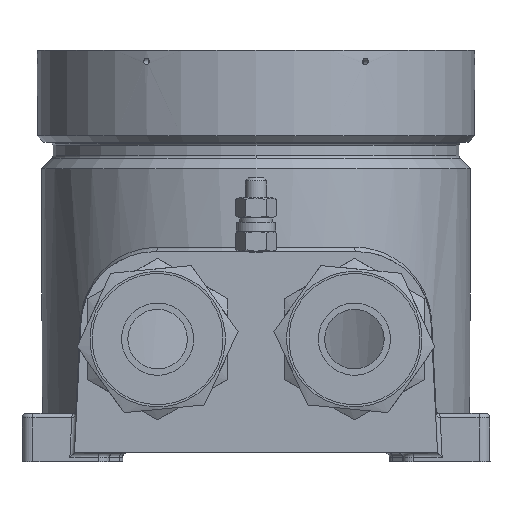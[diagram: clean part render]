
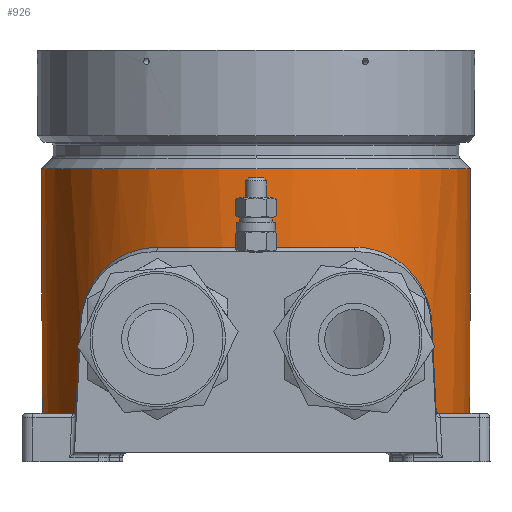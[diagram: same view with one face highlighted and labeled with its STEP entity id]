
A CAD part, left-side view. The second image highlights one B-rep face of the part: STEP entity #926.
In plain terms, the highlighted cylindrical face has radius 49 mm (diameter 98 mm), a full revolution.
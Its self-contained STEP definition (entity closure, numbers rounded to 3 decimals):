
#926=ADVANCED_FACE('',(#8729,#8731),#8733,.T.);
#8729=FACE_BOUND('',#8730,.T.);
#8730=EDGE_LOOP('',(#15916,#15917,#15918,#15919,#15920,#15921,#15922,#15923,#15924,
#15925,#15926));
#8731=FACE_OUTER_BOUND('',#8732,.T.);
#8732=EDGE_LOOP('',(#15927));
#8733=CYLINDRICAL_SURFACE('',#8734,49.);
#8734=AXIS2_PLACEMENT_3D('',#8735,#8736,#8737);
#8735=CARTESIAN_POINT('',(0.,0.,8.));
#8736=DIRECTION('',(0.,0.,1.));
#8737=DIRECTION('',(-1.,0.,0.));
#15916=ORIENTED_EDGE('',*,*,#19667,.F.);
#15917=ORIENTED_EDGE('',*,*,#19668,.T.);
#15918=ORIENTED_EDGE('',*,*,#19669,.F.);
#15919=ORIENTED_EDGE('',*,*,#19439,.F.);
#15920=ORIENTED_EDGE('',*,*,#19554,.F.);
#15921=ORIENTED_EDGE('',*,*,#19553,.F.);
#15922=ORIENTED_EDGE('',*,*,#19550,.F.);
#15923=ORIENTED_EDGE('',*,*,#19670,.F.);
#15924=ORIENTED_EDGE('',*,*,#19671,.T.);
#15925=ORIENTED_EDGE('',*,*,#19672,.F.);
#15926=ORIENTED_EDGE('',*,*,#19673,.T.);
#15927=ORIENTED_EDGE('',*,*,#19674,.T.);
#19439=EDGE_CURVE('',#21517,#21518,#21519,.T.);
#19550=EDGE_CURVE('',#21702,#21703,#21704,.T.);
#19553=EDGE_CURVE('',#21703,#21707,#21708,.F.);
#19554=EDGE_CURVE('',#21707,#21517,#21709,.F.);
#19667=EDGE_CURVE('',#21899,#21900,#21901,.F.);
#19668=EDGE_CURVE('',#21899,#21902,#21903,.T.);
#19669=EDGE_CURVE('',#21518,#21902,#21904,.F.);
#19670=EDGE_CURVE('',#21905,#21702,#21906,.F.);
#19671=EDGE_CURVE('',#21905,#21907,#21908,.T.);
#19672=EDGE_CURVE('',#21909,#21907,#21910,.F.);
#19673=EDGE_CURVE('',#21909,#21900,#21911,.T.);
#19674=EDGE_CURVE('',#21912,#21912,#21913,.F.);
#21517=VERTEX_POINT('',#25587);
#21518=VERTEX_POINT('',#25588);
#21519=B_SPLINE_CURVE_WITH_KNOTS('',3,
(#25589,#25590,#25591,#25592,#25593,#25594,#25595,#25596,#25597,#25598,#25599,#25600,
#25601,#25602,#25603,#25604,#25605,#25606,#25607,#25608,#25609),
.UNSPECIFIED.,.F.,.F.,
(4,1,1,1,1,1,1,1,1,1,1,1,1,1,1,1,1,1,4),
(0.,0.091,0.177,0.256,0.326,0.392,
0.455,0.516,0.573,0.628,0.678,
0.724,0.769,0.814,0.856,0.896,
0.938,0.972,1.),
.UNSPECIFIED.);
#21702=VERTEX_POINT('',#26511);
#21703=VERTEX_POINT('',#26512);
#21704=B_SPLINE_CURVE_WITH_KNOTS('',3,
(#26513,#26514,#26515,#26516,#26517,#26518,#26519,#26520,#26521,#26522,#26523,#26524,
#26525,#26526,#26527,#26528,#26529,#26530,#26531,#26532,#26533,#26534,#26535,#26536,
#26537,#26538,#26539),
.UNSPECIFIED.,.F.,.F.,
(4,1,1,1,1,1,1,1,1,1,1,1,1,1,1,1,1,1,1,1,1,1,1,1,4),
(0.,0.009,0.018,0.026,0.034,
0.045,0.061,0.084,0.114,0.152,
0.192,0.237,0.283,0.332,0.386,
0.442,0.504,0.569,0.637,0.708,
0.779,0.846,0.919,0.969,1.),
.UNSPECIFIED.);
#21707=VERTEX_POINT('',#26551);
#21708=CIRCLE('',#26552,49.);
#21709=CIRCLE('',#26556,49.);
#21899=VERTEX_POINT('',#27247);
#21900=VERTEX_POINT('',#27248);
#21901=CIRCLE('',#27249,49.);
#21902=VERTEX_POINT('',#27253);
#21903=CIRCLE('',#27254,49.);
#21904=(BOUNDED_CURVE()B_SPLINE_CURVE(3,
(#27258,#27259,#27260,#27261),
.UNSPECIFIED.,.F.,.F.)B_SPLINE_CURVE_WITH_KNOTS((4,4),
(0.,1.),
.UNSPECIFIED.)CURVE()GEOMETRIC_REPRESENTATION_ITEM()RATIONAL_B_SPLINE_CURVE((1.,
1.,1.,1.))REPRESENTATION_ITEM(''));
#21905=VERTEX_POINT('',#27262);
#21906=(BOUNDED_CURVE()B_SPLINE_CURVE(3,
(#27263,#27264,#27265,#27266),
.UNSPECIFIED.,.F.,.F.)B_SPLINE_CURVE_WITH_KNOTS((4,4),
(0.,1.),
.UNSPECIFIED.)CURVE()GEOMETRIC_REPRESENTATION_ITEM()RATIONAL_B_SPLINE_CURVE((1.,
1.,1.,1.))REPRESENTATION_ITEM(''));
#21907=VERTEX_POINT('',#27267);
#21908=CIRCLE('',#27268,49.);
#21909=VERTEX_POINT('',#27272);
#21910=CIRCLE('',#27273,49.);
#21911=CIRCLE('',#27277,49.);
#21912=VERTEX_POINT('',#27281);
#21913=CIRCLE('',#27282,49.);
#25587=CARTESIAN_POINT('',(-43.493,22.568,47.));
#25588=CARTESIAN_POINT('',(-28.037,40.186,29.899));
#25589=CARTESIAN_POINT('',(-43.493,22.568,47.));
#25590=CARTESIAN_POINT('',(-43.054,23.416,47.));
#25591=CARTESIAN_POINT('',(-42.151,25.037,46.879));
#25592=CARTESIAN_POINT('',(-40.74,27.264,46.397));
#25593=CARTESIAN_POINT('',(-39.377,29.19,45.722));
#25594=CARTESIAN_POINT('',(-38.089,30.846,44.927));
#25595=CARTESIAN_POINT('',(-36.872,32.289,44.051));
#25596=CARTESIAN_POINT('',(-35.702,33.576,43.095));
#25597=CARTESIAN_POINT('',(-34.586,34.721,42.076));
#25598=CARTESIAN_POINT('',(-33.534,35.737,41.006));
#25599=CARTESIAN_POINT('',(-32.569,36.617,39.915));
#25600=CARTESIAN_POINT('',(-31.705,37.365,38.827));
#25601=CARTESIAN_POINT('',(-30.93,38.009,37.734));
#25602=CARTESIAN_POINT('',(-30.23,38.566,36.618));
#25603=CARTESIAN_POINT('',(-29.605,39.048,35.461));
#25604=CARTESIAN_POINT('',(-29.076,39.443,34.293));
#25605=CARTESIAN_POINT('',(-28.639,39.76,33.094));
#25606=CARTESIAN_POINT('',(-28.322,39.986,31.927));
#25607=CARTESIAN_POINT('',(-28.127,40.124,30.85));
#25608=CARTESIAN_POINT('',(-28.057,40.172,30.193));
#25609=CARTESIAN_POINT('',(-28.037,40.186,29.899));
#26511=CARTESIAN_POINT('',(-28.037,-40.186,29.899));
#26512=CARTESIAN_POINT('',(-43.493,-22.568,47.));
#26513=CARTESIAN_POINT('',(-28.037,-40.186,29.899));
#26514=CARTESIAN_POINT('',(-28.047,-40.179,29.999));
#26515=CARTESIAN_POINT('',(-28.064,-40.167,30.187));
#26516=CARTESIAN_POINT('',(-28.09,-40.149,30.458));
#26517=CARTESIAN_POINT('',(-28.119,-40.129,30.719));
#26518=CARTESIAN_POINT('',(-28.161,-40.099,31.006));
#26519=CARTESIAN_POINT('',(-28.222,-40.056,31.369));
#26520=CARTESIAN_POINT('',(-28.325,-39.984,31.883));
#26521=CARTESIAN_POINT('',(-28.497,-39.862,32.583));
#26522=CARTESIAN_POINT('',(-28.776,-39.661,33.487));
#26523=CARTESIAN_POINT('',(-29.175,-39.369,34.525));
#26524=CARTESIAN_POINT('',(-29.697,-38.978,35.642));
#26525=CARTESIAN_POINT('',(-30.326,-38.491,36.781));
#26526=CARTESIAN_POINT('',(-31.054,-37.908,37.92));
#26527=CARTESIAN_POINT('',(-31.881,-37.216,39.06));
#26528=CARTESIAN_POINT('',(-32.802,-36.409,40.191));
#26529=CARTESIAN_POINT('',(-33.828,-35.46,41.318));
#26530=CARTESIAN_POINT('',(-34.946,-34.361,42.419));
#26531=CARTESIAN_POINT('',(-36.15,-33.096,43.477));
#26532=CARTESIAN_POINT('',(-37.405,-31.673,44.451));
#26533=CARTESIAN_POINT('',(-38.679,-30.106,45.309));
#26534=CARTESIAN_POINT('',(-39.916,-28.446,46.005));
#26535=CARTESIAN_POINT('',(-41.124,-26.672,46.54));
#26536=CARTESIAN_POINT('',(-42.158,-24.999,46.856));
#26537=CARTESIAN_POINT('',(-42.947,-23.603,46.981));
#26538=CARTESIAN_POINT('',(-43.344,-22.855,47.));
#26539=CARTESIAN_POINT('',(-43.493,-22.568,47.));
#26551=CARTESIAN_POINT('',(-49.,0.,47.));
#26552=AXIS2_PLACEMENT_3D('',#26553,#26554,#26555);
#26553=CARTESIAN_POINT('',(0.,0.,47.));
#26554=DIRECTION('',(0.,0.,1.));
#26555=DIRECTION('',(-1.,0.,0.));
#26556=AXIS2_PLACEMENT_3D('',#26557,#26558,#26559);
#26557=CARTESIAN_POINT('',(0.,0.,47.));
#26558=DIRECTION('',(0.,0.,1.));
#26559=DIRECTION('',(-0.888,0.461,0.));
#27247=CARTESIAN_POINT('',(27.695,40.423,9.));
#27248=CARTESIAN_POINT('',(40.423,27.695,9.));
#27249=AXIS2_PLACEMENT_3D('',#27250,#27251,#27252);
#27250=CARTESIAN_POINT('',(0.,0.,9.));
#27251=DIRECTION('',(0.,0.,1.));
#27252=DIRECTION('',(0.825,0.565,0.));
#27253=CARTESIAN_POINT('',(-26.509,41.21,9.));
#27254=AXIS2_PLACEMENT_3D('',#27255,#27256,#27257);
#27255=CARTESIAN_POINT('',(0.,0.,9.));
#27256=DIRECTION('',(0.,0.,1.));
#27257=DIRECTION('',(0.565,0.825,0.));
#27258=CARTESIAN_POINT('',(-26.509,41.21,9.));
#27259=CARTESIAN_POINT('',(-27.025,40.878,15.771));
#27260=CARTESIAN_POINT('',(-27.534,40.537,22.738));
#27261=CARTESIAN_POINT('',(-28.037,40.186,29.899));
#27262=CARTESIAN_POINT('',(-26.509,-41.21,9.));
#27263=CARTESIAN_POINT('',(-28.037,-40.186,29.899));
#27264=CARTESIAN_POINT('',(-27.534,-40.537,22.738));
#27265=CARTESIAN_POINT('',(-27.025,-40.878,15.771));
#27266=CARTESIAN_POINT('',(-26.509,-41.21,9.));
#27267=CARTESIAN_POINT('',(27.695,-40.423,9.));
#27268=AXIS2_PLACEMENT_3D('',#27269,#27270,#27271);
#27269=CARTESIAN_POINT('',(0.,0.,9.));
#27270=DIRECTION('',(0.,0.,1.));
#27271=DIRECTION('',(-0.541,-0.841,0.));
#27272=CARTESIAN_POINT('',(40.423,-27.695,9.));
#27273=AXIS2_PLACEMENT_3D('',#27274,#27275,#27276);
#27274=CARTESIAN_POINT('',(0.,0.,9.));
#27275=DIRECTION('',(0.,0.,1.));
#27276=DIRECTION('',(0.565,-0.825,0.));
#27277=AXIS2_PLACEMENT_3D('',#27278,#27279,#27280);
#27278=CARTESIAN_POINT('',(0.,0.,9.));
#27279=DIRECTION('',(0.,0.,1.));
#27280=DIRECTION('',(0.825,-0.565,0.));
#27281=CARTESIAN_POINT('',(-49.,0.,65.));
#27282=AXIS2_PLACEMENT_3D('',#27283,#27284,#27285);
#27283=CARTESIAN_POINT('',(0.,0.,65.));
#27284=DIRECTION('',(0.,0.,1.));
#27285=DIRECTION('',(-1.,0.,0.));
